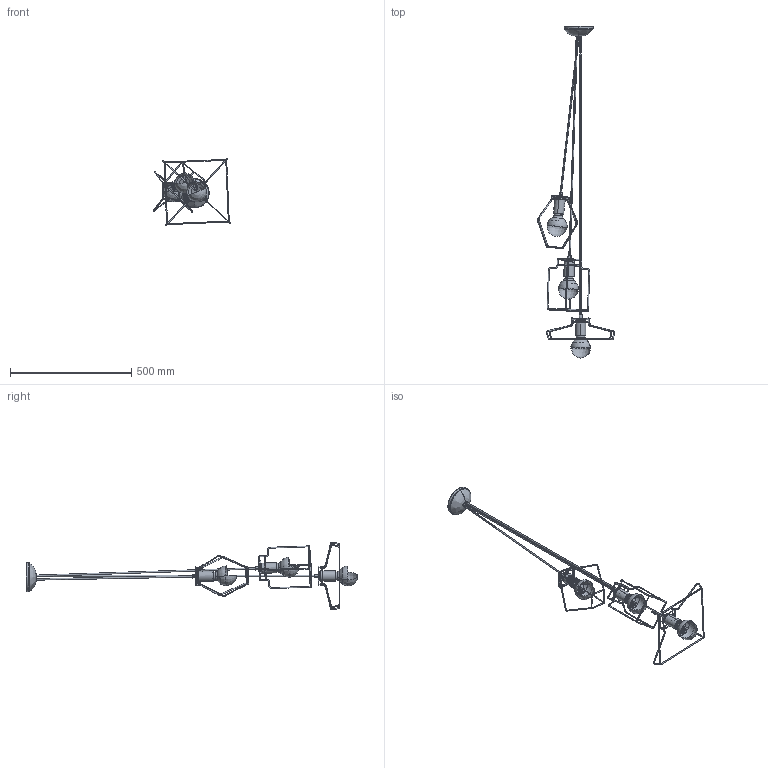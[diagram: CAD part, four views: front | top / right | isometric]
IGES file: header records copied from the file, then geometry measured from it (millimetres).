
Start section: SolidWorks IGES file using analytic representation for surfaces
Global section: file name: E:\_DESIGN\NOWOŒCI\Druciaki\Wybrane druciaki\fiord III.IGS; native system: SolidWorks 2016; preprocessor: SolidWorks 2016; author: Asia; date: 170321.111618; units: millimetre
Bounding box: 318.59 x 1370.32 x 280.24 mm (x, y, z)
Surface area: 409123.2 mm2 (no closed solid volume)
Topology: 0 solids, 0 shells, 1022 faces, 11954 edges, 11951 vertices
Faces by surface type: revolution 640, bspline 382
